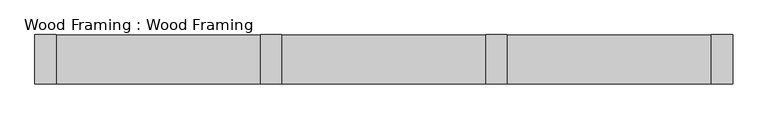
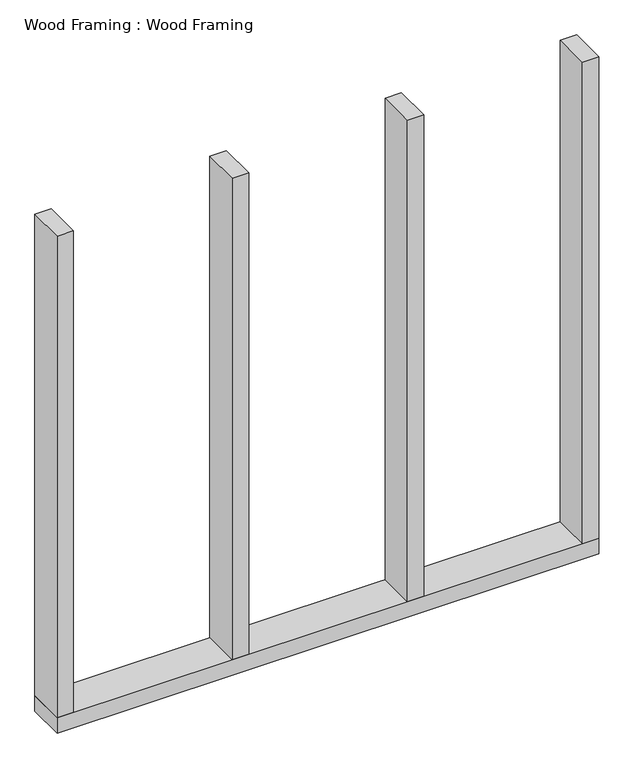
"""IFC4 building model written with IfcOpenShell, lengths in millimetres: proxy geometry, Wood Framing : Wood Framing."""

from ifc_helpers import new_model, si_unit, frame, origin, origin_with_axes, place, context, project, spatial, polyline, outline, extrude, source, transform, mapped, element, save


def wood_framing_wood_framing_a479036c(model_context):
    return source(origin(), model_context, "Body", "SweptSolid", [
        extrude(outline(polyline([(-3881.2179718, 34793.6421435), (-3881.2179718, 34882.5421435), (-3843.1179718, 34882.5421435), (-3843.1179718, 34793.6421435), (-3881.2179718, 34793.6421435)])), frame((0.0, 0.0, 38.1), z_axis=(0.0, 0.0, 1.0), x_axis=(1.0, 0.0, 0.0)), (0.0, 0.0, 1.0), 1181.1),
        extrude(outline(polyline([(-4287.6179718, 34793.6421435), (-4287.6179718, 34882.5421435), (-4249.5179718, 34882.5421435), (-4249.5179718, 34793.6421435), (-4287.6179718, 34793.6421435)])), frame((0.0, 0.0, 38.1), z_axis=(0.0, 0.0, 1.0), x_axis=(1.0, 0.0, 0.0)), (0.0, 0.0, 1.0), 1181.1),
        extrude(outline(polyline([(-4694.0179718, 34793.6421435), (-4694.0179718, 34882.5421435), (-4655.9179718, 34882.5421435), (-4655.9179718, 34793.6421435), (-4694.0179718, 34793.6421435)])), frame((0.0, 0.0, 38.1), z_axis=(0.0, 0.0, 1.0), x_axis=(1.0, 0.0, 0.0)), (0.0, 0.0, 1.0), 1181.1),
        extrude(outline(polyline([(-5100.4179718, 34793.6421435), (-5100.4179718, 34882.5421435), (-5062.3179718, 34882.5421435), (-5062.3179718, 34793.6421435), (-5100.4179718, 34793.6421435)])), frame((0.0, 0.0, 38.1), z_axis=(0.0, 0.0, 1.0), x_axis=(1.0, 0.0, 0.0)), (0.0, 0.0, 1.0), 1181.1),
        extrude(outline(polyline([(-3843.1179718, 34882.5421435), (-3843.1179718, 34793.6421435), (-5100.4179718, 34793.6421435), (-5100.4179718, 34882.5421435), (-3843.1179718, 34882.5421435)])), origin_with_axes(), (0.0, 0.0, 1.0), 38.1),
    ])


if __name__ == "__main__":
    model = new_model("IFC4")
    model_context = context("Model", 3, world=origin())
    ifc_project = project(units=[si_unit("LENGTHUNIT", "METRE", prefix="MILLI")], contexts=[model_context])
    site = spatial("IfcSite", under=ifc_project)
    building = spatial("IfcBuilding", under=site)
    placement = place(None, origin())
    wood_framing_wood_framing_shape = wood_framing_wood_framing_a479036c(model_context)
    element("IfcBuildingElementProxy", 1, Name="Wood Framing : Wood Framing", ObjectType="Wood Framing : Wood Framing", at=placement, inside=building, context=model_context, shape_type="MappedRepresentation", body=[
        mapped(wood_framing_wood_framing_shape, transform((0.0, 0.0, 0.0), x_axis=(1.0, 0.0, 0.0), y_axis=(0.0, 1.0, 0.0), z_axis=(0.0, 0.0, 1.0))),
    ])
    save(model, "model.ifc")
